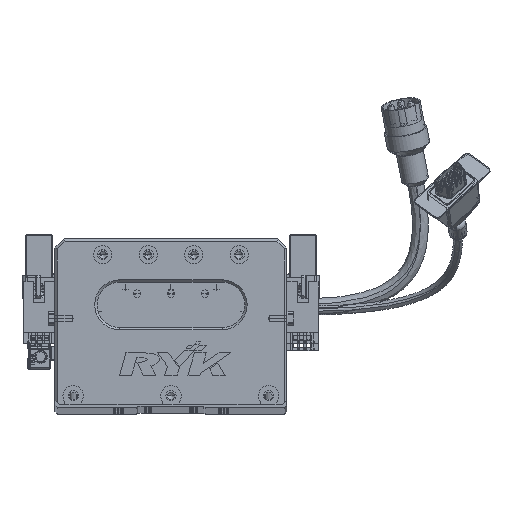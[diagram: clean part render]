
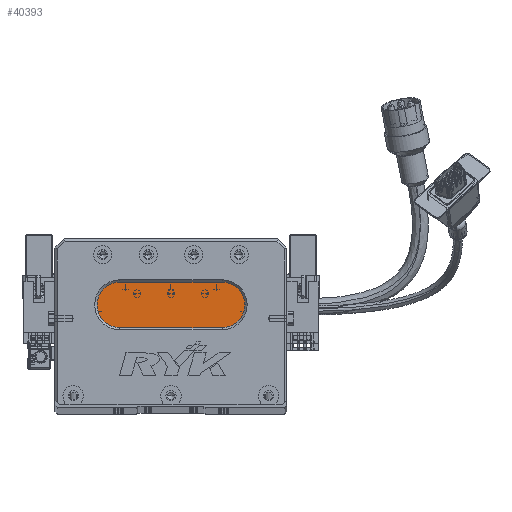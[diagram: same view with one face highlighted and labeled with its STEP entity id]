
A CAD part, top view. The second image highlights one B-rep face of the part: STEP entity #40393.
In plain terms, the highlighted planar face has unit normal (0, 0, 1) as drawn and (0, 0, -1) by its records, which use the part's own axes.
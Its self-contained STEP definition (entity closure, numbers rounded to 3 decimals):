
#727 = EDGE_LOOP ( 'NONE', ( #55012, #2753, #11827, #58110, #62857 ) ) ;
#2753 = ORIENTED_EDGE ( 'NONE', *, *, #68177, .T. ) ;
#3021 = DIRECTION ( 'NONE',  ( -1., 0., 0. ) ) ;
#3050 = CARTESIAN_POINT ( 'NONE',  ( 73.5, 34., 13. ) ) ;
#5693 = LINE ( 'NONE', #73160, #38554 ) ;
#6371 = DIRECTION ( 'NONE',  ( -1., 0., 0. ) ) ;
#6617 = DIRECTION ( 'NONE',  ( 0., 0., -1. ) ) ;
#6966 = CARTESIAN_POINT ( 'NONE',  ( 73.5, 54., 13. ) ) ;
#11535 = CARTESIAN_POINT ( 'NONE',  ( 28.5, 54., 13. ) ) ;
#11827 = ORIENTED_EDGE ( 'NONE', *, *, #57941, .T. ) ;
#12196 = DIRECTION ( 'NONE',  ( -1., 0., 0. ) ) ;
#15792 = CARTESIAN_POINT ( 'NONE',  ( 18.5, 44., 13. ) ) ;
#21088 = VERTEX_POINT ( 'NONE', #6966 ) ;
#24168 = FACE_OUTER_BOUND ( 'NONE', #727, .T. ) ;
#25415 = DIRECTION ( 'NONE',  ( -1., 0., 0. ) ) ;
#26201 = EDGE_CURVE ( 'NONE', #44704, #21088, #34779, .T. ) ;
#30116 = VECTOR ( 'NONE', #30494, 1000. ) ;
#30494 = DIRECTION ( 'NONE',  ( 1., 0., 0. ) ) ;
#31585 = DIRECTION ( 'NONE',  ( 0., 0., -1. ) ) ;
#33198 = CIRCLE ( 'NONE', #70858, 10. ) ;
#34449 = CIRCLE ( 'NONE', #42535, 10. ) ;
#34779 = LINE ( 'NONE', #37314, #30116 ) ;
#36445 = AXIS2_PLACEMENT_3D ( 'NONE', #71405, #6617, #6371 ) ;
#37314 = CARTESIAN_POINT ( 'NONE',  ( 73.5, 54., 13. ) ) ;
#37372 = DIRECTION ( 'NONE',  ( 0., 0., -1. ) ) ;
#38554 = VECTOR ( 'NONE', #25415, 1000. ) ;
#40393 = ADVANCED_FACE ( 'NONE', ( #24168 ), #74854, .T. ) ;
#42535 = AXIS2_PLACEMENT_3D ( 'NONE', #73288, #37372, #49387 ) ;
#44704 = VERTEX_POINT ( 'NONE', #11535 ) ;
#45019 = VERTEX_POINT ( 'NONE', #73891 ) ;
#48537 = CIRCLE ( 'NONE', #36445, 10. ) ;
#48847 = EDGE_CURVE ( 'NONE', #55145, #44704, #48537, .T. ) ;
#49387 = DIRECTION ( 'NONE',  ( -1., 0., 0. ) ) ;
#50308 = VERTEX_POINT ( 'NONE', #3050 ) ;
#55012 = ORIENTED_EDGE ( 'NONE', *, *, #72413, .T. ) ;
#55145 = VERTEX_POINT ( 'NONE', #15792 ) ;
#57941 = EDGE_CURVE ( 'NONE', #45019, #55145, #34449, .T. ) ;
#58110 = ORIENTED_EDGE ( 'NONE', *, *, #48847, .T. ) ;
#62857 = ORIENTED_EDGE ( 'NONE', *, *, #26201, .T. ) ;
#64081 = AXIS2_PLACEMENT_3D ( 'NONE', #75102, #69069, #3021 ) ;
#68177 = EDGE_CURVE ( 'NONE', #50308, #45019, #5693, .T. ) ;
#69069 = DIRECTION ( 'NONE',  ( 0., 0., -1. ) ) ;
#70858 = AXIS2_PLACEMENT_3D ( 'NONE', #73823, #31585, #12196 ) ;
#71405 = CARTESIAN_POINT ( 'NONE',  ( 28.5, 44., 13. ) ) ;
#72413 = EDGE_CURVE ( 'NONE', #21088, #50308, #33198, .T. ) ;
#73160 = CARTESIAN_POINT ( 'NONE',  ( 73.5, 34., 13. ) ) ;
#73288 = CARTESIAN_POINT ( 'NONE',  ( 28.5, 44., 13. ) ) ;
#73823 = CARTESIAN_POINT ( 'NONE',  ( 73.5, 44., 13. ) ) ;
#73891 = CARTESIAN_POINT ( 'NONE',  ( 28.5, 34., 13. ) ) ;
#74854 = PLANE ( 'NONE',  #64081 ) ;
#75102 = CARTESIAN_POINT ( 'NONE',  ( 73.5, 44., 13. ) ) ;
